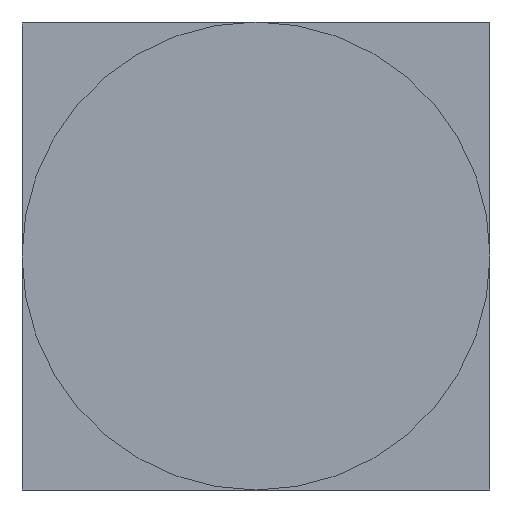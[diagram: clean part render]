
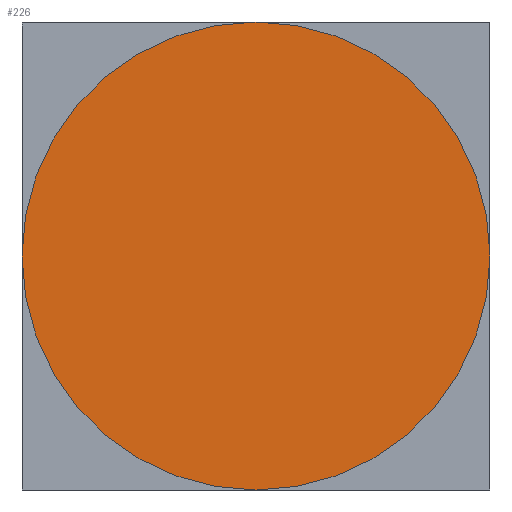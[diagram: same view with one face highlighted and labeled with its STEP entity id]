
A CAD part, left-side view. The second image highlights one B-rep face of the part: STEP entity #226.
In plain terms, the highlighted planar face has unit normal (-1, 0, 0).
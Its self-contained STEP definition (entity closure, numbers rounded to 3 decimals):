
#34=FACE_OUTER_BOUND('',#51,.T.);
#51=EDGE_LOOP('',(#199));
#98=CIRCLE('',#263,10.);
#115=VERTEX_POINT('',#391);
#143=EDGE_CURVE('',#115,#115,#98,.T.);
#199=ORIENTED_EDGE('',*,*,#143,.T.);
#211=PLANE('',#264);
#226=ADVANCED_FACE('',(#34),#211,.T.);
#263=AXIS2_PLACEMENT_3D('',#393,#330,#331);
#264=AXIS2_PLACEMENT_3D('',#394,#332,#333);
#330=DIRECTION('center_axis',(-1.,0.,0.));
#331=DIRECTION('ref_axis',(0.,1.,0.));
#332=DIRECTION('center_axis',(-1.,0.,0.));
#333=DIRECTION('ref_axis',(0.,1.,0.));
#391=CARTESIAN_POINT('',(-4.047,-217.427,6.745));
#393=CARTESIAN_POINT('Origin',(-4.047,-207.427,6.745));
#394=CARTESIAN_POINT('Origin',(-4.047,-207.427,6.745));
